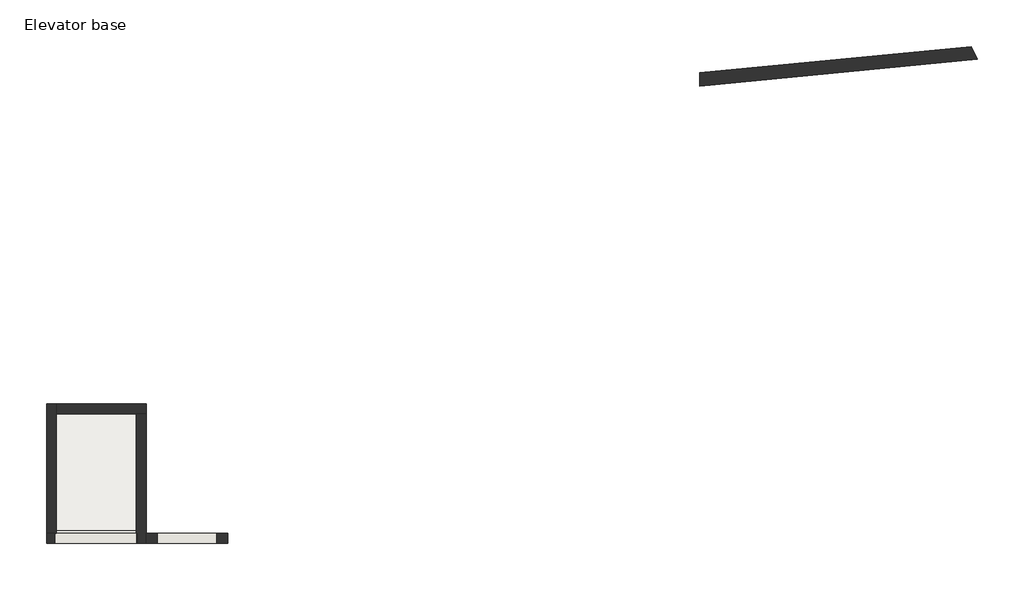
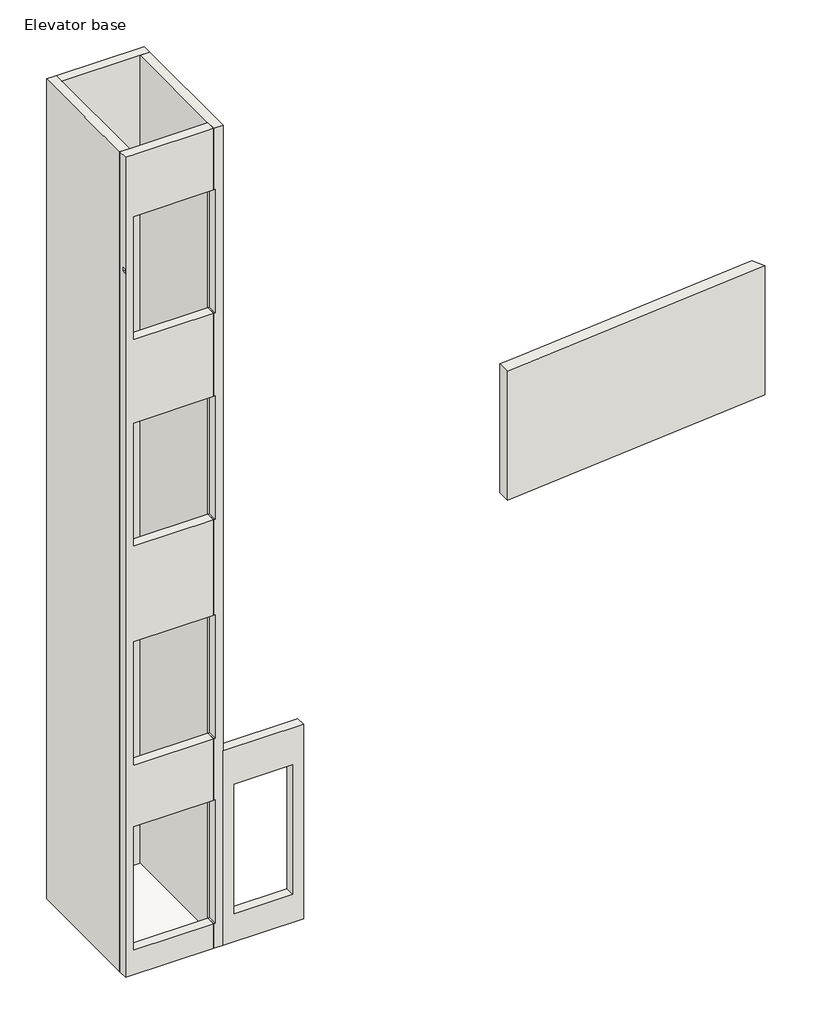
# One storey, incomplete: 6 walls, 1 slab.
"""IFC4 building model written with IfcOpenShell, lengths in millimetres."""

import ifcopenshell
import ifcopenshell.guid

model = None  # the IFC model being written
_history = None  # IfcOwnerHistory: only IFC2X3 demands one
_inside = {}  # id of a spatial element -> (the spatial element, [elements in it])
_under = {}  # id of a project, library or spatial element -> (it, [spatial elements below it])
_declared = {}  # id of a project -> (the project, [libraries it declares])
_typed = {}  # id of a type object -> (the type object, [elements of that type])
_made_of = {}  # id of a material, layer set ... -> (it, [elements and type objects made of it])


def new_model(schema):
    """Start an empty IFC model of exactly this schema.

    Asked for "IFC4X3", IfcOpenShell would pick the latest addendum, in which some entities
    have other attributes; the version numbers below select the first issue.
    IFC2X3 requires an IfcOwnerHistory on every rooted entity: one is made here for all.
    """
    global model, _history
    if schema == "IFC4X3":
        model = ifcopenshell.file(schema_version=(4, 3, 0, 0))
    else:
        model = ifcopenshell.file(schema=schema)
    _inside.clear()
    _under.clear()
    _declared.clear()
    _typed.clear()
    _made_of.clear()
    _history = None
    if model.schema == "IFC2X3":
        org = make("IfcOrganization", Name="unknown")
        user = make(
            "IfcPersonAndOrganization",
            ThePerson=make("IfcPerson", FamilyName="unknown"),
            TheOrganization=org,
        )
        app = make(
            "IfcApplication",
            ApplicationDeveloper=org,
            Version="unknown",
            ApplicationFullName="unknown",
            ApplicationIdentifier="unknown",
        )
        _history = make(
            "IfcOwnerHistory",
            OwningUser=user,
            OwningApplication=app,
            ChangeAction="ADDED",
            CreationDate=0,
        )
    return model


def make(cls, **values):
    """One entity of the class cls with the attributes given. An attribute that is None is left unset."""
    return model.create_entity(
        cls, **{name: value for name, value in values.items() if value is not None}
    )


def rooted(cls, **values):
    """An entity with a GlobalId (a new one), such as an element, a storey or a relation."""
    return make(cls, GlobalId=ifcopenshell.guid.new(), OwnerHistory=_history, **values)


def si_unit(unit_type, name, prefix=None):
    """IfcSIUnit, for example si_unit("LENGTHUNIT", "METRE", prefix="MILLI")."""
    return make("IfcSIUnit", UnitType=unit_type, Prefix=prefix, Name=name)


def assignment(units):
    """IfcUnitAssignment: the units of a project."""
    return None if units is None else make("IfcUnitAssignment", Units=units)


def point(xyz):
    """IfcCartesianPoint."""
    return None if xyz is None else make("IfcCartesianPoint", Coordinates=xyz)


def direction(xyz):
    """IfcDirection."""
    return None if xyz is None else make("IfcDirection", DirectionRatios=xyz)


def frame(location, z_axis=None, x_axis=None):
    """IfcAxis2Placement3D, a coordinate frame: its origin and axes. An axis left out is left unset."""
    return make(
        "IfcAxis2Placement3D",
        Location=point(location),
        Axis=direction(z_axis),
        RefDirection=direction(x_axis),
    )


def origin():
    """The frame at (0, 0, 0) with its axes left unset."""
    return frame((0.0, 0.0, 0.0))


def place(relative_to, where):
    """IfcLocalPlacement: puts the frame where relative to a parent placement (None: the world)."""
    return make(
        "IfcLocalPlacement", PlacementRelTo=relative_to, RelativePlacement=where
    )


def context(
    kind, dimensions, precision=None, world=None, true_north=None, identifier=None
):
    """IfcGeometricRepresentationContext, for example the 3D "Model" context."""
    return make(
        "IfcGeometricRepresentationContext",
        ContextIdentifier=identifier,
        ContextType=kind,
        CoordinateSpaceDimension=dimensions,
        Precision=precision,
        WorldCoordinateSystem=world,
        TrueNorth=true_north,
    )


def project(units=None, contexts=None):
    """IfcProject with its units and contexts."""
    return rooted(
        "IfcProject",
        Name="project",
        RepresentationContexts=contexts,
        UnitsInContext=assignment(units),
    )


def spatial(cls, under=None, at=None, **own):
    """A site, building, storey or space (cls), placed at a placement, below another one or the project."""
    s = rooted(cls, ObjectPlacement=at, **own)
    if under is not None:
        _under.setdefault(under.id(), (under, []))[1].append(s)
    return s


def polyline(points):
    """IfcPolyline through the points."""
    return make("IfcPolyline", Points=[point(p) for p in points])


def outline(outer, holes=None, kind="AREA"):
    """IfcArbitraryClosedProfileDef: a profile drawn as a closed curve; with holes, ...WithVoids."""
    if holes is None:
        return make("IfcArbitraryClosedProfileDef", ProfileType=kind, OuterCurve=outer)
    return make(
        "IfcArbitraryProfileDefWithVoids",
        ProfileType=kind,
        OuterCurve=outer,
        InnerCurves=holes,
    )


def extrude(swept, where, along, depth):
    """IfcExtrudedAreaSolid: the profile swept, set in the frame where, extruded along a direction by depth."""
    return make(
        "IfcExtrudedAreaSolid",
        SweptArea=swept,
        Position=where,
        ExtrudedDirection=direction(along),
        Depth=depth,
    )


def faces_of(points, faces, orient=None, outer=None):
    """IfcFace entities. A face is a list of loops; a loop is a list of indices into points, from 0.

    orient and outer hold one flag for each loop. By default every Orientation is true, the
    first loop of a face is its IfcFaceOuterBound and the others are IfcFaceBound.
    """
    made = []
    for i, loops in enumerate(faces):
        bounds = []
        for j, loop in enumerate(loops):
            is_outer = j == 0 if outer is None else outer[i][j]
            bounds.append(
                make(
                    "IfcFaceOuterBound" if is_outer else "IfcFaceBound",
                    Bound=make("IfcPolyLoop", Polygon=[points[k] for k in loop]),
                    Orientation=True if orient is None else orient[i][j],
                )
            )
        made.append(make("IfcFace", Bounds=bounds))
    return made


def faceted_brep(points, faces, orient=None, outer=None, voids=None):
    """IfcFacetedBrep: a solid bounded by flat faces; with voids (closed shells), ...WithVoids."""
    shared = [point(p) for p in points]
    hull = make("IfcClosedShell", CfsFaces=faces_of(shared, faces, orient, outer))
    if voids is None:
        return make("IfcFacetedBrep", Outer=hull)
    return make(
        "IfcFacetedBrepWithVoids",
        Outer=hull,
        Voids=[
            make(cls, CfsFaces=faces_of(shared, fs, o, b)) for cls, fs, o, b in voids
        ],
    )


def shape(context_of_items, identifier, shape_type, items):
    """IfcShapeRepresentation: the items that make up one representation, for example the "Body"."""
    return make(
        "IfcShapeRepresentation",
        ContextOfItems=context_of_items,
        RepresentationIdentifier=identifier,
        RepresentationType=shape_type,
        Items=items,
    )


def made_of(thing, what):
    """Note that an element or type object is made of a material, layer set ...; save() writes the relation."""
    if what is not None:
        _made_of.setdefault(what.id(), (what, []))[1].append(thing)
    return thing


def element(
    cls,
    number,
    at=None,
    inside=None,
    cuts=None,
    type_object=None,
    material=None,
    context=None,
    identifier="Body",
    shape_type=None,
    held_by="IfcProductDefinitionShape",
    body=None,
    shapes=None,
    **own,
):
    """One element of the class cls, such as IfcWall. Its Tag is "e" and its number.

    at: its placement. inside: the storey or other place that contains it. cuts: it is an
    opening in that element (IfcRelVoidsElement). A single representation is given by context,
    identifier, shape_type and body (its items); several are given by shapes. held_by: the class
    of the entity that holds the representations. save() writes the other relations.
    """
    e = rooted(cls, Tag="e%d" % number, ObjectPlacement=at, **own)
    if body is not None:
        shapes = [shape(context, identifier, shape_type, body)]
    if shapes is not None:
        e.Representation = make(held_by, Representations=shapes)
    if inside is not None:
        _inside.setdefault(inside.id(), (inside, []))[1].append(e)
    if cuts is not None:
        rooted(
            "IfcRelVoidsElement", RelatingBuildingElement=cuts, RelatedOpeningElement=e
        )
    if type_object is not None:
        _typed.setdefault(type_object.id(), (type_object, []))[1].append(e)
    return made_of(e, material)


def aggregate(whole, parts):
    """IfcRelAggregates: a whole, such as a stair, and the parts it consists of."""
    return rooted("IfcRelAggregates", RelatingObject=whole, RelatedObjects=parts)


def save(model, path):
    """Write the relations noted so far, then the file.

    IfcRelAggregates (storeys below a building ...), IfcRelContainedInSpatialStructure (elements
    in a storey), IfcRelDefinesByType, IfcRelAssociatesMaterial and IfcRelDeclares: one each for
    every whole, place, type object, material and project.
    """
    for whole, parts in _under.values():
        aggregate(whole, parts)
    for where, things in _inside.values():
        rooted(
            "IfcRelContainedInSpatialStructure",
            RelatedElements=things,
            RelatingStructure=where,
        )
    for kind, things in _typed.values():
        rooted("IfcRelDefinesByType", RelatedObjects=things, RelatingType=kind)
    for what, things in _made_of.values():
        rooted("IfcRelAssociatesMaterial", RelatedObjects=things, RelatingMaterial=what)
    for by, libraries in _declared.values():
        rooted("IfcRelDeclares", RelatingContext=by, RelatedDefinitions=libraries)
    model.write(path)


model = new_model("IFC4")

# Units and contexts
model_context = context("Model", 3, world=origin())
ifc_project = project(units=[si_unit("LENGTHUNIT", "METRE", prefix="MILLI")], contexts=[model_context])

# Site, building, storey
site = spatial("IfcSite", under=ifc_project)
building = spatial("IfcBuilding", under=site)
storey = spatial("IfcBuildingStorey", under=building, Name="Elevator base", Elevation=-200.0)

# Slab
placement = place(None, origin())
element("IfcSlab", 1, ObjectType="150mm Foundation Slab", at=placement, inside=storey, context=model_context, shape_type="SweptSolid", body=[
    extrude(outline(polyline([(7034.4560655, -350.0), (5234.4560655, -350.0), (5234.4560655, -300.0), (5284.4560655, -300.0), (5284.4560655, -200.0), (7034.4560655, -200.0), (7034.4560655, -350.0)])), frame((-3407.4765921, 0.0, 0.0), z_axis=(1.0, 0.0, 0.0), x_axis=(0.0, 1.0, 0.0)), (0.0, 0.0, 1.0), 1200.0),
])

# Walls
element("IfcWall", 2, ObjectType="Generic - 200mm", at=placement, inside=storey, context=model_context, shape_type="Brep", body=[
    faceted_brep([(10382.6917473, 12579.3038568, -290.1041335), (6287.8774899, 12182.7092562, -290.1041335), (6287.8774899, 12182.7092562, 0.0), (6287.8774899, 12182.7092562, 1800.0), (6462.5911227, 12199.6307767, 1800.0), (10382.6917473, 12579.3038568, 1800.0), (10473.5595998, 12387.1688123, -290.1041335), (10473.5595998, 12387.1688123, 1300.0), (10473.5595998, 12387.1688123, 1800.0), (6487.8774899, 12001.1439758, 1800.0), (6287.8774899, 11981.7733975, 1800.0), (6287.8774899, 11981.7733975, 0.0), (6287.8774899, 11981.7733975, -290.1041335)], [[[0, 1, 2, 3, 4, 5]], [[6, 7, 8, 9, 10, 11, 12]], [[1, 0, 6, 12]], [[5, 4, 3, 10, 9, 8]], [[3, 2, 1, 12, 11, 10]], [[0, 5, 8, 7, 6]]]),
])
element("IfcWall", 3, ObjectType="Generic -150mm", at=placement, inside=storey, context=model_context, shape_type="Brep", body=[
    faceted_brep([(-3407.4765921, 5234.4560655, 12900.0), (-3407.4765921, 5234.4560655, -400.0), (-3407.4765921, 7034.4560655, -400.0), (-3407.4765921, 7184.4560655, -400.0), (-3407.4765921, 7184.4560655, 12900.0), (-3407.4765921, 7034.4560655, 12900.0), (-3557.4765921, 5234.4560655, -400.0), (-3557.4765921, 5234.4560655, 12900.0), (-3557.4765921, 6084.4560655, 12900.0), (-3557.4765921, 6234.4560655, 12900.0), (-3557.4765921, 7184.4560655, 12900.0), (-3557.4765921, 7184.4560655, 3968.1818182), (-3557.4765921, 7184.4560655, 950.0), (-3557.4765921, 7184.4560655, -400.0)], [[[0, 1, 2, 3, 4, 5]], [[6, 7, 8, 9, 10, 11, 12, 13]], [[3, 2, 1, 6, 13]], [[0, 5, 4, 10, 9, 8, 7]], [[0, 7, 6, 1]], [[3, 13, 12, 11, 10, 4]]]),
])
element("IfcWall", 4, ObjectType="Generic -150mm", at=placement, inside=storey, context=model_context, shape_type="Brep", body=[
    faceted_brep([(-3407.4765921, 7034.4560655, 12900.0), (-3407.4765921, 7034.4560655, -400.0), (-2207.4765921, 7034.4560655, -400.0), (-2057.4765921, 7034.4560655, -400.0), (-2057.4765921, 7034.4560655, 12900.0), (-2207.4765921, 7034.4560655, 12900.0), (-3407.4765921, 7184.4560655, -400.0), (-3407.4765921, 7184.4560655, 12900.0), (-2057.4765921, 7184.4560655, 12900.0), (-2057.4765921, 7184.4560655, -400.0)], [[[0, 1, 2, 3, 4, 5]], [[6, 7, 8, 9]], [[3, 2, 1, 6, 9]], [[4, 3, 9, 8]], [[0, 5, 4, 8, 7]], [[0, 7, 6, 1]]]),
])
element("IfcWall", 5, ObjectType="Generic -150mm", at=placement, inside=storey, context=model_context, shape_type="Brep", body=[
    faceted_brep([(-2207.4765921, 7034.4560655, -400.0), (-2207.4765921, 5234.4560655, -400.0), (-2207.4765921, 5084.4560655, -400.0), (-2207.4765921, 5084.4560655, 0.0), (-2207.4765921, 5234.4560655, 0.0), (-2207.4765921, 5234.4560655, 2000.0), (-2207.4765921, 5084.4560655, 2000.0), (-2207.4765921, 5084.4560655, 3000.0), (-2207.4765921, 5234.4560655, 3000.0), (-2207.4765921, 5234.4560655, 5000.0), (-2207.4765921, 5084.4560655, 5000.0), (-2207.4765921, 5084.4560655, 6550.0), (-2207.4765921, 5234.4560655, 6550.0), (-2207.4765921, 5234.4560655, 8550.0), (-2207.4765921, 5084.4560655, 8550.0), (-2207.4765921, 5084.4560655, 9900.0), (-2207.4765921, 5234.4560655, 9900.0), (-2207.4765921, 5234.4560655, 11900.0), (-2207.4765921, 5084.4560655, 11900.0), (-2207.4765921, 5084.4560655, 12900.0), (-2207.4765921, 5234.4560655, 12900.0), (-2207.4765921, 7034.4560655, 12900.0), (-2057.4765921, 5084.4560655, -400.0), (-2057.4765921, 5234.4560655, -400.0), (-2057.4765921, 7034.4560655, -400.0), (-2057.4765921, 7034.4560655, 12900.0), (-2057.4765921, 5084.4560655, 12900.0), (-2057.4765921, 5084.4560655, 2750.0), (-2057.4765921, 5354.4560655, 1700.0), (-2057.4765921, 5354.4560655, 1760.0), (-2057.4765921, 5414.4560655, 1760.0), (-2057.4765921, 5414.4560655, 1700.0), (-2182.4765921, 5084.4560655, 11900.0), (-2182.4765921, 5084.4560655, 9900.0), (-2182.4765921, 5084.4560655, 8550.0), (-2182.4765921, 5084.4560655, 6550.0), (-2182.4765921, 5084.4560655, 5000.0), (-2182.4765921, 5084.4560655, 3000.0), (-2182.4765921, 5084.4560655, 2000.0), (-2182.4765921, 5084.4560655, 0.0), (-2182.4765921, 5234.4560655, 6550.0), (-2182.4765921, 5234.4560655, 8550.0), (-2182.4765921, 5234.4560655, 0.0), (-2182.4765921, 5234.4560655, 2000.0), (-2182.4765921, 5234.4560655, 3000.0), (-2182.4765921, 5234.4560655, 5000.0), (-2182.4765921, 5234.4560655, 9900.0), (-2182.4765921, 5234.4560655, 11900.0), (-2107.4765921, 5354.4560655, 1700.0), (-2107.4765921, 5414.4560655, 1700.0), (-2107.4765921, 5414.4560655, 1760.0), (-2107.4765921, 5354.4560655, 1760.0)], [[[0, 1, 2, 3, 4, 5, 6, 7, 8, 9, 10, 11, 12, 13, 14, 15, 16, 17, 18, 19, 20, 21]], [[22, 23, 24, 25, 26, 27], [28, 29, 30, 31]], [[2, 1, 0, 24, 23, 22]], [[0, 21, 25, 24]], [[21, 20, 19, 26, 25]], [[2, 22, 27, 26, 19, 18, 32, 33, 15, 14, 34, 35, 11, 10, 36, 37, 7, 6, 38, 39, 3]], [[40, 41, 13, 12]], [[41, 34, 14, 13]], [[35, 40, 12, 11]], [[41, 40, 35, 34]], [[42, 43, 5, 4]], [[43, 38, 6, 5]], [[43, 42, 39, 38]], [[39, 42, 4, 3]], [[44, 45, 9, 8]], [[45, 36, 10, 9]], [[45, 44, 37, 36]], [[37, 44, 8, 7]], [[46, 47, 17, 16]], [[47, 32, 18, 17]], [[47, 46, 33, 32]], [[33, 46, 16, 15]], [[48, 49, 50, 51]], [[48, 51, 29, 28]], [[51, 50, 30, 29]], [[50, 49, 31, 30]], [[49, 48, 28, 31]]]),
])
element("IfcWall", 6, ObjectType="Generic -150mm", at=placement, inside=storey, context=model_context, shape_type="Brep", body=[
    faceted_brep([(-2207.4765921, 5234.4560655, -400.0), (-3407.4765921, 5234.4560655, -400.0), (-3557.4765921, 5234.4560655, -400.0), (-3557.4765921, 5234.4560655, 12900.0), (-3407.4765921, 5234.4560655, 12900.0), (-2207.4765921, 5234.4560655, 12900.0), (-2207.4765921, 5234.4560655, 11900.0), (-3437.4833892, 5234.4560655, 11900.0), (-3437.4833892, 5234.4560655, 9900.0), (-2207.4765921, 5234.4560655, 9900.0), (-2207.4765921, 5234.4560655, 8550.0), (-3437.4833892, 5234.4560655, 8550.0), (-3437.4833892, 5234.4560655, 6550.0), (-2207.4765921, 5234.4560655, 6550.0), (-2207.4765921, 5234.4560655, 5000.0), (-3437.4833892, 5234.4560655, 5000.0), (-3437.4833892, 5234.4560655, 3000.0), (-2207.4765921, 5234.4560655, 3000.0), (-2207.4765921, 5234.4560655, 2000.0), (-3437.4833892, 5234.4560655, 2000.0), (-3437.4833892, 5234.4560655, 0.0), (-2207.4765921, 5234.4560655, 0.0), (-3557.4765921, 5084.4560655, -400.0), (-2207.4765921, 5084.4560655, -400.0), (-2207.4765921, 5084.4560655, 0.0), (-3437.4833892, 5084.4560655, 0.0), (-3437.4833892, 5084.4560655, 2000.0), (-2207.4765921, 5084.4560655, 2000.0), (-2207.4765921, 5084.4560655, 3000.0), (-3407.4765921, 5084.4560655, 3000.0), (-3437.4833892, 5084.4560655, 3000.0), (-3437.4833892, 5084.4560655, 5000.0), (-2207.4765921, 5084.4560655, 5000.0), (-2207.4765921, 5084.4560655, 6550.0), (-3437.4833892, 5084.4560655, 6550.0), (-3437.4833892, 5084.4560655, 8550.0), (-2207.4765921, 5084.4560655, 8550.0), (-2207.4765921, 5084.4560655, 9900.0), (-3437.4833892, 5084.4560655, 9900.0), (-3437.4833892, 5084.4560655, 11900.0), (-2207.4765921, 5084.4560655, 11900.0), (-2207.4765921, 5084.4560655, 12900.0), (-3407.4765921, 5084.4560655, 12900.0), (-3557.4765921, 5084.4560655, 12900.0), (-3557.4765921, 5084.4560655, 9900.0), (-3557.4765921, 5084.4560655, 9650.0), (-3557.4765921, 5084.4560655, 6550.0), (-3557.4765921, 5084.4560655, 3000.0), (-3557.4765921, 5084.4560655, 0.0), (-3557.4765921, 5149.4560655, 11020.0), (-3557.4765921, 5149.4560655, 11080.0), (-3557.4765921, 5089.4560655, 11080.0), (-3557.4765921, 5089.4560655, 11020.0), (-3507.4765921, 5149.4560655, 11020.0), (-3507.4765921, 5089.4560655, 11020.0), (-3507.4765921, 5089.4560655, 11080.0), (-3507.4765921, 5149.4560655, 11080.0)], [[[0, 1, 2, 3, 4, 5, 6, 7, 8, 9, 10, 11, 12, 13, 14, 15, 16, 17, 18, 19, 20, 21]], [[22, 23, 24, 25, 26, 27, 28, 29, 30, 31, 32, 33, 34, 35, 36, 37, 38, 39, 40, 41, 42, 43, 44, 45, 46, 47, 48]], [[2, 1, 0, 23, 22]], [[5, 4, 3, 43, 42, 41]], [[2, 22, 48, 47, 46, 45, 44, 43, 3], [49, 50, 51, 52]], [[23, 0, 21, 24]], [[5, 41, 40, 6]], [[13, 33, 32, 14]], [[36, 10, 9, 37]], [[27, 18, 17, 28]], [[11, 10, 36, 35]], [[13, 12, 34, 33]], [[11, 35, 34, 12]], [[25, 20, 19, 26]], [[26, 19, 18, 27]], [[20, 25, 24, 21]], [[30, 16, 15, 31]], [[31, 15, 14, 32]], [[16, 30, 29, 28, 17]], [[38, 8, 7, 39]], [[39, 7, 6, 40]], [[8, 38, 37, 9]], [[53, 54, 55, 56]], [[53, 56, 50, 49]], [[56, 55, 51, 50]], [[55, 54, 52, 51]], [[54, 53, 49, 52]]]),
])
element("IfcWall", 7, ObjectType="Generic -150mm", at=placement, inside=storey, context=model_context, shape_type="SweptSolid", body=[
    extrude(outline(polyline([(-400.0, -2057.4765921), (-400.0, -827.4765921), (2750.0, -827.4765921), (2750.0, -2057.4765921), (-400.0, -2057.4765921)]), holes=[polyline([(50.0, -1892.4765921), (2150.0, -1892.4765921), (2150.0, -992.4765921), (50.0, -992.4765921), (50.0, -1892.4765921)])]), frame((0.0, 5084.4560655, 0.0), z_axis=(0.0, 1.0, 0.0), x_axis=(0.0, 0.0, 1.0)), (0.0, 0.0, 1.0), 150.0),
])

save(model, "model.ifc")
